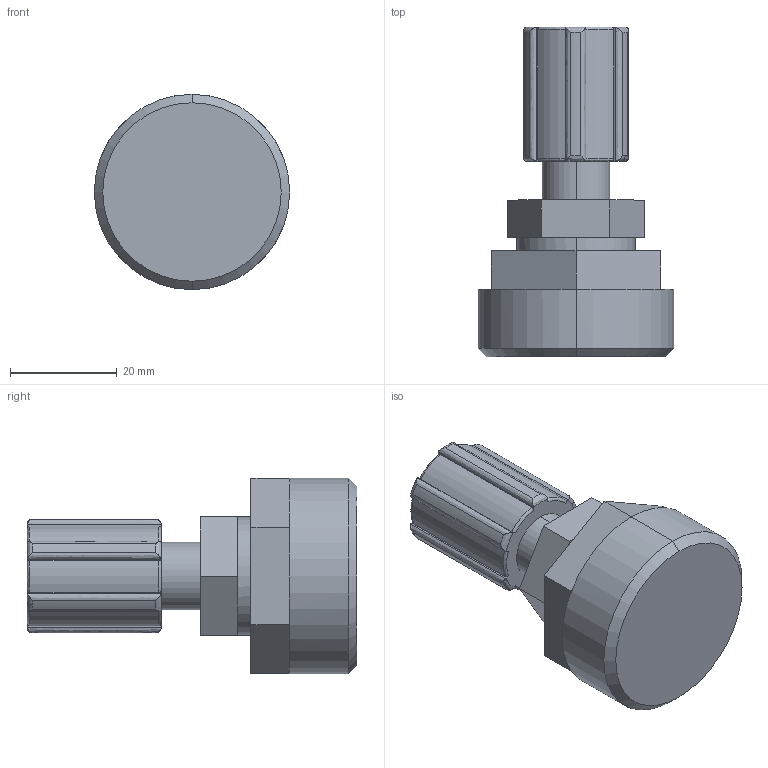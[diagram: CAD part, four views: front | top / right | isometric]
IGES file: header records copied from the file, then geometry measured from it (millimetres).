
Start section: SolidWorks IGES file using analytic representation for surfaces
Global section: file name: S:\Product Visuals\REVISED-30L-TOP-MOUNT-FITTINGS\IGS\top-straight-outlet-only\flaretek\04-flaretek-with-top-mount-adapter.IGS; native system: SolidWorks 2012; preprocessor: SolidWorks 2012; author: rachel.dressel; date: 121127.152336; units: inch
Bounding box: 36.6 x 61.75 x 36.66 mm (x, y, z)
Volume: 31978.6 mm3; surface area: 7486.7 mm2
Topology: 1 solids, 1 shells, 111 faces, 299 edges, 194 vertices
Faces by surface type: plane 48, revolution 37, bspline 26
